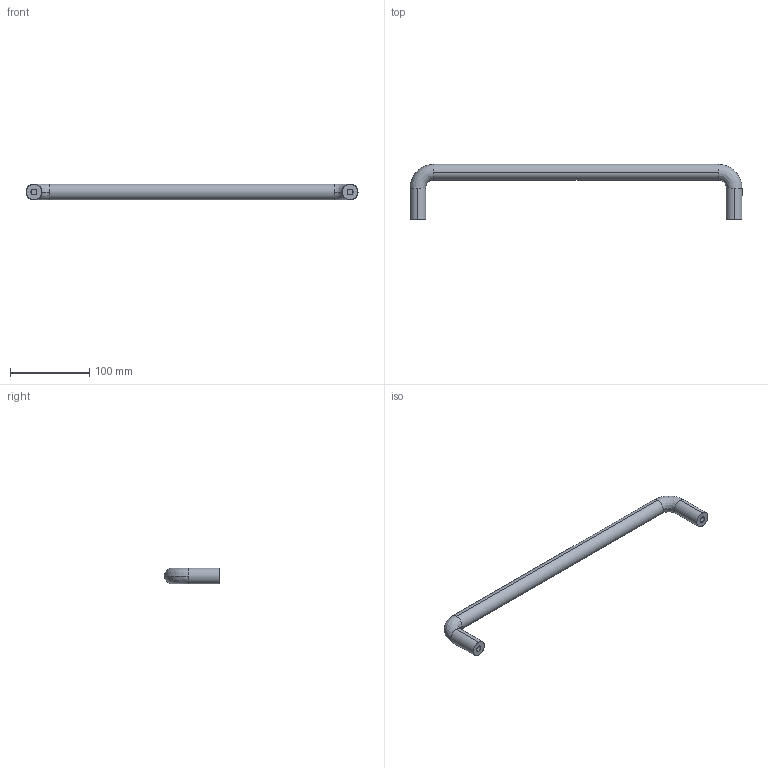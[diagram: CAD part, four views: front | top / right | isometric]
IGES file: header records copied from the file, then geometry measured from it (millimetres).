
Start section: SolidWorks IGES file using analytic representation for surfaces
Global section: file name: D:\由鑫國際內部資料\內部資料\3D圖檔\MS-749\P=400.IGS,15HSolidWorks; native system: 2008; preprocessor: SolidWorks 2008; author: Administrator; date: 091201.113610; units: millimetre
Bounding box: 420 x 70 x 20 mm (x, y, z)
Surface area: 32932.3 mm2 (no closed solid volume)
Topology: 0 solids, 0 shells, 18 faces, 264 edges, 264 vertices
Faces by surface type: revolution 10, bspline 8
